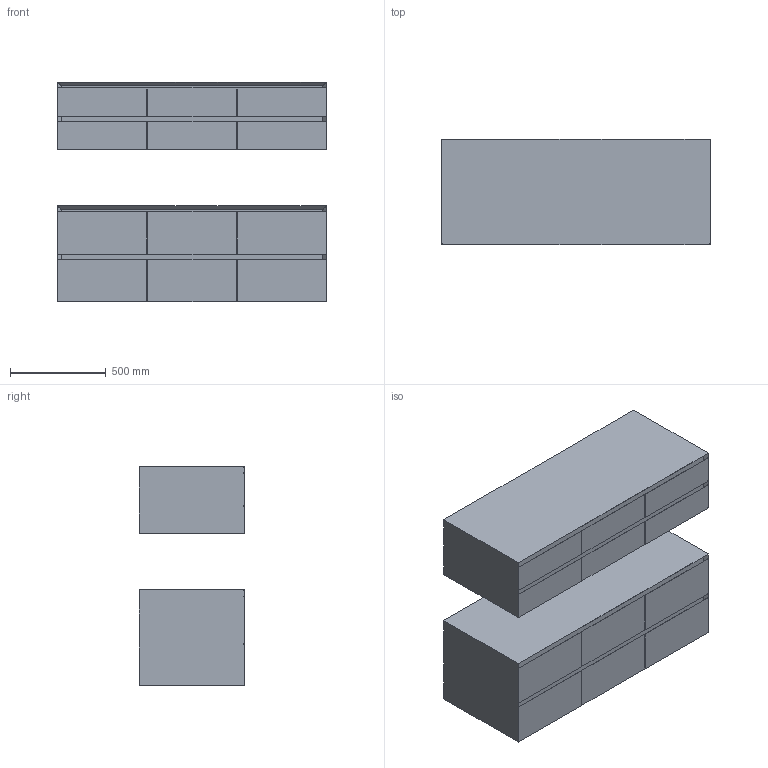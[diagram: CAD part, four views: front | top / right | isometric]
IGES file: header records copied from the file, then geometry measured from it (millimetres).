
Global section: file name: \\Archi-NAS\Comune\X GIOVANNI\MOBILI\EVOLINE\EVOLINE_9.igs; native system: Rhinoceros ( Feb 23 2021 ); preprocessor: Trout Lake IGES 012 Feb 23 2021; date: 230607.150224; units: millimetre
Bounding box: 1400 x 550 x 1143.94 mm (x, y, z)
Surface area: 22839000.1 mm2 (no closed solid volume)
Topology: 0 solids, 0 shells, 516 faces, 2736 edges, 2736 vertices
Faces by surface type: bspline 516
